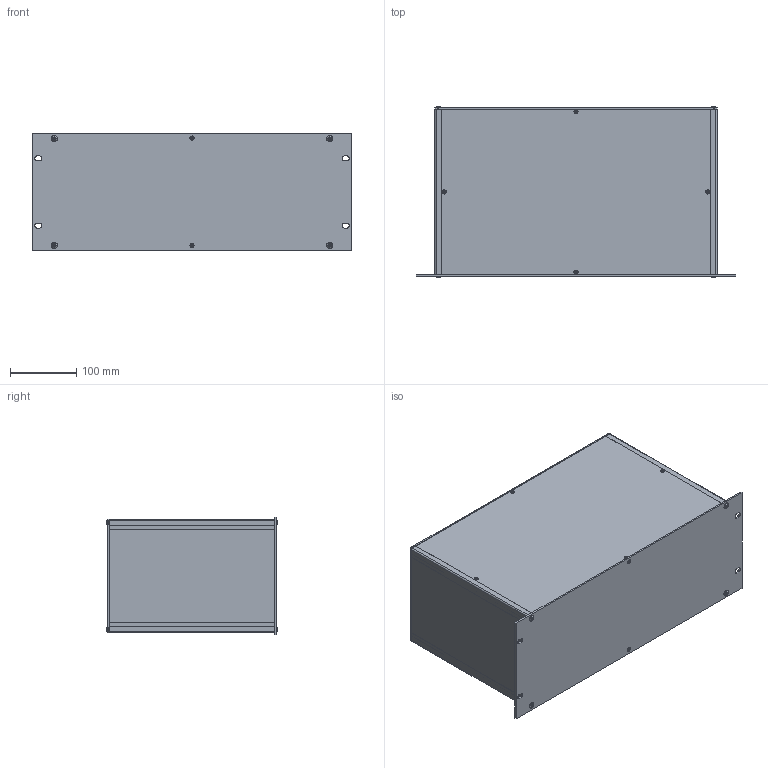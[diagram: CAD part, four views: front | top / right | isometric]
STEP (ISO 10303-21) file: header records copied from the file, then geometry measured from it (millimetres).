
FILE_DESCRIPTION(/* description */ (''),/* implementation_level */ '2;1');
FILE_NAME(/* name */ '//diskstation/Kunden/Gehäuse/Gehäuse/4HE/step/19 Zoll 3HE Rack Gehäuse Tiefe-250.step',/* time_stamp */ '2022-02-17T16:06:20+01:00',/* author */ (''),/* organization */ (''),/* preprocessor_version */ 'ST-DEVELOPER v18.1',/* originating_system */ 'Autodesk Translation Framework v10.10.0.1391',/* authorisation */ '');
FILE_SCHEMA (('AUTOMOTIVE_DESIGN { 1 0 10303 214 3 1 1 }'));
Length unit declared in the file: millimetre
Products named in the file (28): 4HE Gehäuse mit parametern; Gehäuse; Gehäuseprofil 1 unten links; Gehäuseprofil 2 oben rechts; Gehäuseprofil 1 unten rechts; Gehäuseprofil 2 oben links; Rückplatte; Deckel; Seitenteil links; Seitenteil rechts; Bodenplatte; Montageklotz Front/Deckel; Montageklotz Front/Boden; Montageklotz Rück/Deckel; Montageklotz Rück/Boden; Gewindestreifen; Frontplatte; Schrauben M5; Schraube Front; Schraube Front (1); Schraube Front (2); Schraube Front (3); Schraube Rück (1); Schraube Rück; Schraube Rück (2); Schraube Rück (3); Schrauben M3; HI_Senkschraube DIN 965 A v2 M3x5 24677.030.005(High)
Assembly tree (37 placements, depth 3):
  4HE Gehäuse mit parametern
    Gehäuse
      Gehäuseprofil 1 unten links
      Gehäuseprofil 2 oben rechts
      Gehäuseprofil 1 unten rechts
      Gehäuseprofil 2 oben links
      Rückplatte
      Deckel
      Seitenteil links
      Seitenteil rechts
      Bodenplatte
      Montageklotz Front/Deckel
      Montageklotz Front/Boden
      Montageklotz Rück/Deckel
      Montageklotz Rück/Boden
      Gewindestreifen  x2
    Frontplatte
    Schrauben M5
      Schraube Front
      Schraube Front (1)
      Schraube Front (2)
      Schraube Front (3)
      Schraube Rück (1)
      Schraube Rück
      Schraube Rück (2)
      Schraube Rück (3)
    Schrauben M3
      HI_Senkschraube DIN 965 A v2 M3x5 24677.030.005(High)  x10
Bounding box: 483 x 258.2 x 177 mm (x, y, z)
Volume: 1145722.4 mm3; surface area: 997424.3 mm2
Topology: 34 solids, 34 shells, 854 faces, 2076 edges, 1290 vertices
Faces by surface type: plane 342, cylinder 332, cone 164, torus 8, bspline 8
Full cylindrical faces by diameter (mm): 2.529 x90, 3 x10, 3.2 x10, 4.234 x40, 5 x8, 5.2 x4, 5.3 x8, 5.6 x10, 9.5 x8
Entity records: 16845 total; most frequent: CARTESIAN_POINT 3078, DIRECTION 2820, ORIENTED_EDGE 2490, EDGE_CURVE 1245, AXIS2_PLACEMENT_3D 1060, VERTEX_POINT 778, EDGE_LOOP 731, LINE 700
